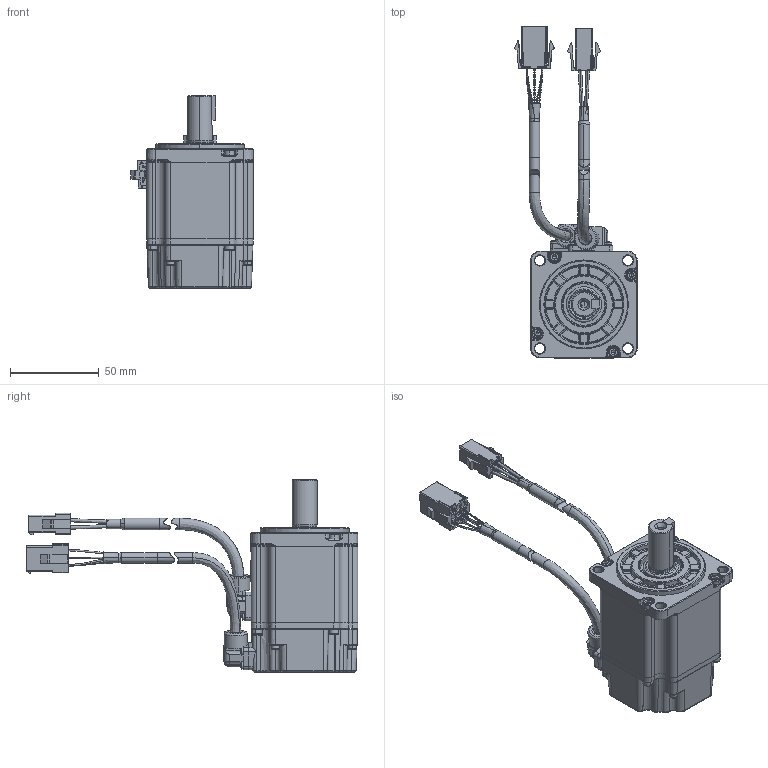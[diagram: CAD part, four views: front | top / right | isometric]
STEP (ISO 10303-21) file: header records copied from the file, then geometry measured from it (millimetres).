
FILE_DESCRIPTION (( 'STEP AP203' ), '1' );
FILE_NAME ('4030602-↓↓↓↓_60萇儂_DM1M-02A60[]8S_A1.STEP', '2020-05-19T08:46:29', ( '' ), ( '' ), 'SwSTEP 2.0', 'SolidWorks 2018', '' );
FILE_SCHEMA (( 'CONFIG_CONTROL_DESIGN' ));
Length unit declared in the file: millimetre
Products named in the file (1): 4030602-↓↓↓↓_60萇儂_DM1M-02A60[]8S_A1
Bounding box: 68.88 x 186.5 x 108.4 mm (x, y, z)
Surface area: 43077.6 mm2 (no closed solid volume)
Topology: 0 solids, 63 shells, 1387 faces, 4468 edges, 3028 vertices
Faces by surface type: plane 604, cylinder 310, bspline 152, cone 152, torus 132, sphere 37
Entity records: 53906 total; most frequent: CARTESIAN_POINT 15907, DIRECTION 7872, ORIENTED_EDGE 7339, EDGE_CURVE 4430, VERTEX_POINT 3028, AXIS2_PLACEMENT_3D 2692, LINE 2488, VECTOR 2488
